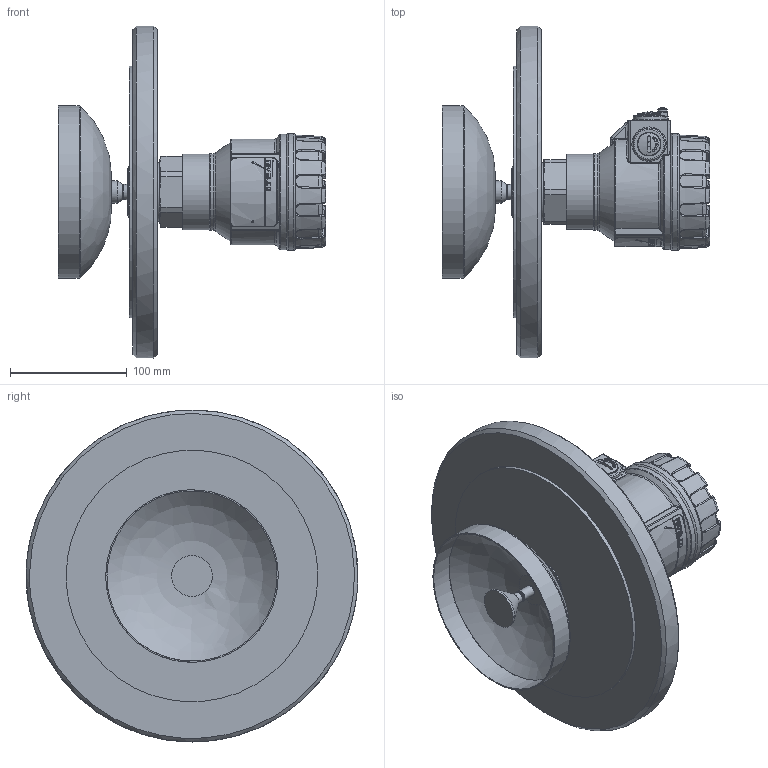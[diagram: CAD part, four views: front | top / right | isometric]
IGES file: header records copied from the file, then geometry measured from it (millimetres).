
Global section: file name: WES_119_Al; native system: Autodesk Inventor 2015; preprocessor: unknown; author: aantal; date: 20150306.113845; units: millimetre
Bounding box: 229.5 x 284.98 x 285 mm (x, y, z)
Volume: 2265205.9 mm3; surface area: 311709 mm2
Topology: 12 solids, 12 shells, 1182 faces, 2987 edges, 1879 vertices
Faces by surface type: bspline 1182
